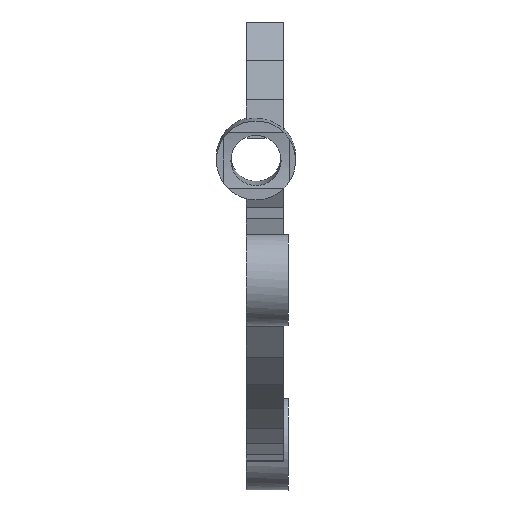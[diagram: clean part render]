
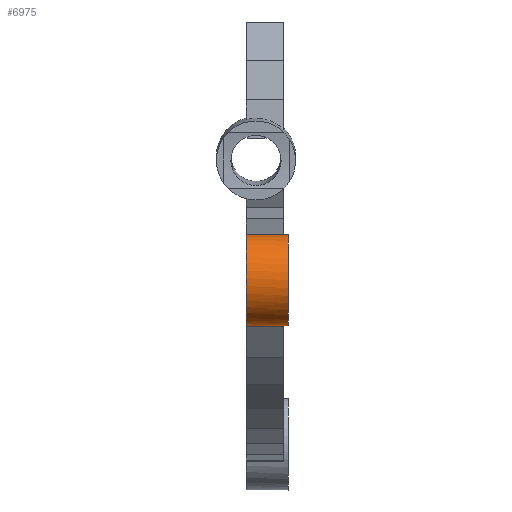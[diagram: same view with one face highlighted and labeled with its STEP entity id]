
A CAD part, front view. The second image highlights one B-rep face of the part: STEP entity #6975.
In plain terms, the highlighted cylindrical face has radius 3.7 mm (diameter 7.4 mm), a full revolution.
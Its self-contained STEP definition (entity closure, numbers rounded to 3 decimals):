
#1044 = PLANE('',#1045);
#1045 = AXIS2_PLACEMENT_3D('',#1046,#1047,#1048);
#1046 = CARTESIAN_POINT('',(40.7,-61.959,-68.298));
#1047 = DIRECTION('',(1.,0.,0.));
#1048 = DIRECTION('',(-0.,0.,1.));
#1120 = PLANE('',#1121);
#1121 = AXIS2_PLACEMENT_3D('',#1122,#1123,#1124);
#1122 = CARTESIAN_POINT('',(43.7,-61.959,-68.298));
#1123 = DIRECTION('',(1.,0.,0.));
#1124 = DIRECTION('',(-0.,0.,1.));
#3469 = VERTEX_POINT('',#3470);
#3470 = CARTESIAN_POINT('',(40.7,-75.061,-62.057));
#3484 = PLANE('',#3485);
#3485 = AXIS2_PLACEMENT_3D('',#3486,#3487,#3488);
#3486 = CARTESIAN_POINT('',(40.7,-75.49,-60.777));
#3487 = DIRECTION('',(-0.,0.948,0.317));
#3488 = DIRECTION('',(0.,0.317,-0.948));
#3496 = EDGE_CURVE('',#3469,#3497,#3499,.T.);
#3497 = VERTEX_POINT('',#3498);
#3498 = CARTESIAN_POINT('',(40.7,-75.269,-62.052));
#3499 = SURFACE_CURVE('',#3500,(#3505,#3512),.PCURVE_S1.);
#3500 = CIRCLE('',#3501,3.7);
#3501 = AXIS2_PLACEMENT_3D('',#3502,#3503,#3504);
#3502 = CARTESIAN_POINT('',(40.7,-75.269,-65.752));
#3503 = DIRECTION('',(1.,0.,0.));
#3504 = DIRECTION('',(-0.,0.,1.));
#3505 = PCURVE('',#1044,#3506);
#3506 = DEFINITIONAL_REPRESENTATION('',(#3507),#3511);
#3507 = CIRCLE('',#3508,3.7);
#3508 = AXIS2_PLACEMENT_2D('',#3509,#3510);
#3509 = CARTESIAN_POINT('',(2.547,13.31));
#3510 = DIRECTION('',(1.,0.));
#3511 = ( GEOMETRIC_REPRESENTATION_CONTEXT(2) 
PARAMETRIC_REPRESENTATION_CONTEXT() REPRESENTATION_CONTEXT('2D SPACE',''
  ) );
#3512 = PCURVE('',#3513,#3518);
#3513 = CYLINDRICAL_SURFACE('',#3514,3.7);
#3514 = AXIS2_PLACEMENT_3D('',#3515,#3516,#3517);
#3515 = CARTESIAN_POINT('',(40.7,-75.269,-65.752));
#3516 = DIRECTION('',(1.,0.,0.));
#3517 = DIRECTION('',(-0.,0.,1.));
#3518 = DEFINITIONAL_REPRESENTATION('',(#3519),#3523);
#3519 = LINE('',#3520,#3521);
#3520 = CARTESIAN_POINT('',(0.,0.));
#3521 = VECTOR('',#3522,1.);
#3522 = DIRECTION('',(1.,0.));
#3523 = ( GEOMETRIC_REPRESENTATION_CONTEXT(2) 
PARAMETRIC_REPRESENTATION_CONTEXT() REPRESENTATION_CONTEXT('2D SPACE',''
  ) );
#3525 = EDGE_CURVE('',#3497,#3526,#3528,.T.);
#3526 = VERTEX_POINT('',#3527);
#3527 = CARTESIAN_POINT('',(40.7,-72.305,-67.966));
#3528 = SURFACE_CURVE('',#3529,(#3534,#3541),.PCURVE_S1.);
#3529 = CIRCLE('',#3530,3.7);
#3530 = AXIS2_PLACEMENT_3D('',#3531,#3532,#3533);
#3531 = CARTESIAN_POINT('',(40.7,-75.269,-65.752));
#3532 = DIRECTION('',(1.,0.,0.));
#3533 = DIRECTION('',(-0.,0.,1.));
#3534 = PCURVE('',#1044,#3535);
#3535 = DEFINITIONAL_REPRESENTATION('',(#3536),#3540);
#3536 = CIRCLE('',#3537,3.7);
#3537 = AXIS2_PLACEMENT_2D('',#3538,#3539);
#3538 = CARTESIAN_POINT('',(2.547,13.31));
#3539 = DIRECTION('',(1.,0.));
#3540 = ( GEOMETRIC_REPRESENTATION_CONTEXT(2) 
PARAMETRIC_REPRESENTATION_CONTEXT() REPRESENTATION_CONTEXT('2D SPACE',''
  ) );
#3541 = PCURVE('',#3513,#3542);
#3542 = DEFINITIONAL_REPRESENTATION('',(#3543),#3547);
#3543 = LINE('',#3544,#3545);
#3544 = CARTESIAN_POINT('',(0.,0.));
#3545 = VECTOR('',#3546,1.);
#3546 = DIRECTION('',(1.,0.));
#3547 = ( GEOMETRIC_REPRESENTATION_CONTEXT(2) 
PARAMETRIC_REPRESENTATION_CONTEXT() REPRESENTATION_CONTEXT('2D SPACE',''
  ) );
#3565 = PLANE('',#3566);
#3566 = AXIS2_PLACEMENT_3D('',#3567,#3568,#3569);
#3567 = CARTESIAN_POINT('',(40.7,-73.07,-66.766));
#3568 = DIRECTION('',(-0.,0.843,0.537));
#3569 = DIRECTION('',(0.,0.537,-0.843));
#4543 = VERTEX_POINT('',#4544);
#4544 = CARTESIAN_POINT('',(43.7,-75.061,-62.057));
#4565 = EDGE_CURVE('',#4566,#4543,#4568,.T.);
#4566 = VERTEX_POINT('',#4567);
#4567 = CARTESIAN_POINT('',(43.7,-72.305,-67.966));
#4568 = SURFACE_CURVE('',#4569,(#4574,#4581),.PCURVE_S1.);
#4569 = CIRCLE('',#4570,3.7);
#4570 = AXIS2_PLACEMENT_3D('',#4571,#4572,#4573);
#4571 = CARTESIAN_POINT('',(43.7,-75.269,-65.752));
#4572 = DIRECTION('',(1.,0.,0.));
#4573 = DIRECTION('',(-0.,0.,1.));
#4574 = PCURVE('',#1120,#4575);
#4575 = DEFINITIONAL_REPRESENTATION('',(#4576),#4580);
#4576 = CIRCLE('',#4577,3.7);
#4577 = AXIS2_PLACEMENT_2D('',#4578,#4579);
#4578 = CARTESIAN_POINT('',(2.547,13.31));
#4579 = DIRECTION('',(1.,0.));
#4580 = ( GEOMETRIC_REPRESENTATION_CONTEXT(2) 
PARAMETRIC_REPRESENTATION_CONTEXT() REPRESENTATION_CONTEXT('2D SPACE',''
  ) );
#4581 = PCURVE('',#3513,#4582);
#4582 = DEFINITIONAL_REPRESENTATION('',(#4583),#4587);
#4583 = LINE('',#4584,#4585);
#4584 = CARTESIAN_POINT('',(0.,3.));
#4585 = VECTOR('',#4586,1.);
#4586 = DIRECTION('',(1.,0.));
#4587 = ( GEOMETRIC_REPRESENTATION_CONTEXT(2) 
PARAMETRIC_REPRESENTATION_CONTEXT() REPRESENTATION_CONTEXT('2D SPACE',''
  ) );
#6930 = EDGE_CURVE('',#3469,#4543,#6931,.T.);
#6931 = SURFACE_CURVE('',#6932,(#6936,#6942),.PCURVE_S1.);
#6932 = LINE('',#6933,#6934);
#6933 = CARTESIAN_POINT('',(40.7,-75.061,-62.057));
#6934 = VECTOR('',#6935,1.);
#6935 = DIRECTION('',(1.,0.,0.));
#6936 = PCURVE('',#3484,#6937);
#6937 = DEFINITIONAL_REPRESENTATION('',(#6938),#6941);
#6938 = B_SPLINE_CURVE_WITH_KNOTS('',1,(#6939,#6940),.UNSPECIFIED.,.F.,
  .F.,(2,2),(0.,3.3),.PIECEWISE_BEZIER_KNOTS.);
#6939 = CARTESIAN_POINT('',(1.35,0.));
#6940 = CARTESIAN_POINT('',(1.35,-3.3));
#6941 = ( GEOMETRIC_REPRESENTATION_CONTEXT(2) 
PARAMETRIC_REPRESENTATION_CONTEXT() REPRESENTATION_CONTEXT('2D SPACE',''
  ) );
#6942 = PCURVE('',#3513,#6943);
#6943 = DEFINITIONAL_REPRESENTATION('',(#6944),#6947);
#6944 = B_SPLINE_CURVE_WITH_KNOTS('',1,(#6945,#6946),.UNSPECIFIED.,.F.,
  .F.,(2,2),(0.,3.3),.PIECEWISE_BEZIER_KNOTS.);
#6945 = CARTESIAN_POINT('',(6.227,0.));
#6946 = CARTESIAN_POINT('',(6.227,3.3));
#6947 = ( GEOMETRIC_REPRESENTATION_CONTEXT(2) 
PARAMETRIC_REPRESENTATION_CONTEXT() REPRESENTATION_CONTEXT('2D SPACE',''
  ) );
#6975 = ADVANCED_FACE('',(#6976),#3513,.T.);
#6976 = FACE_BOUND('',#6977,.T.);
#6977 = EDGE_LOOP('',(#6978,#7001,#7028,#7029,#7030,#7049,#7050,#7051));
#6978 = ORIENTED_EDGE('',*,*,#6979,.T.);
#6979 = EDGE_CURVE('',#3497,#6980,#6982,.T.);
#6980 = VERTEX_POINT('',#6981);
#6981 = CARTESIAN_POINT('',(44.1,-75.269,-62.052));
#6982 = SEAM_CURVE('',#6983,(#6987,#6994),.PCURVE_S1.);
#6983 = LINE('',#6984,#6985);
#6984 = CARTESIAN_POINT('',(40.7,-75.269,-62.052));
#6985 = VECTOR('',#6986,1.);
#6986 = DIRECTION('',(1.,0.,0.));
#6987 = PCURVE('',#3513,#6988);
#6988 = DEFINITIONAL_REPRESENTATION('',(#6989),#6993);
#6989 = LINE('',#6990,#6991);
#6990 = CARTESIAN_POINT('',(6.283,-0.));
#6991 = VECTOR('',#6992,1.);
#6992 = DIRECTION('',(0.,1.));
#6993 = ( GEOMETRIC_REPRESENTATION_CONTEXT(2) 
PARAMETRIC_REPRESENTATION_CONTEXT() REPRESENTATION_CONTEXT('2D SPACE',''
  ) );
#6994 = PCURVE('',#3513,#6995);
#6995 = DEFINITIONAL_REPRESENTATION('',(#6996),#7000);
#6996 = LINE('',#6997,#6998);
#6997 = CARTESIAN_POINT('',(0.,-0.));
#6998 = VECTOR('',#6999,1.);
#6999 = DIRECTION('',(0.,1.));
#7000 = ( GEOMETRIC_REPRESENTATION_CONTEXT(2) 
PARAMETRIC_REPRESENTATION_CONTEXT() REPRESENTATION_CONTEXT('2D SPACE',''
  ) );
#7001 = ORIENTED_EDGE('',*,*,#7002,.F.);
#7002 = EDGE_CURVE('',#6980,#6980,#7003,.T.);
#7003 = SURFACE_CURVE('',#7004,(#7009,#7016),.PCURVE_S1.);
#7004 = CIRCLE('',#7005,3.7);
#7005 = AXIS2_PLACEMENT_3D('',#7006,#7007,#7008);
#7006 = CARTESIAN_POINT('',(44.1,-75.269,-65.752));
#7007 = DIRECTION('',(1.,0.,0.));
#7008 = DIRECTION('',(-0.,0.,1.));
#7009 = PCURVE('',#3513,#7010);
#7010 = DEFINITIONAL_REPRESENTATION('',(#7011),#7015);
#7011 = LINE('',#7012,#7013);
#7012 = CARTESIAN_POINT('',(0.,3.4));
#7013 = VECTOR('',#7014,1.);
#7014 = DIRECTION('',(1.,0.));
#7015 = ( GEOMETRIC_REPRESENTATION_CONTEXT(2) 
PARAMETRIC_REPRESENTATION_CONTEXT() REPRESENTATION_CONTEXT('2D SPACE',''
  ) );
#7016 = PCURVE('',#7017,#7022);
#7017 = PLANE('',#7018);
#7018 = AXIS2_PLACEMENT_3D('',#7019,#7020,#7021);
#7019 = CARTESIAN_POINT('',(44.1,-75.269,-65.752));
#7020 = DIRECTION('',(1.,0.,0.));
#7021 = DIRECTION('',(-0.,0.,1.));
#7022 = DEFINITIONAL_REPRESENTATION('',(#7023),#7027);
#7023 = CIRCLE('',#7024,3.7);
#7024 = AXIS2_PLACEMENT_2D('',#7025,#7026);
#7025 = CARTESIAN_POINT('',(0.,0.));
#7026 = DIRECTION('',(1.,0.));
#7027 = ( GEOMETRIC_REPRESENTATION_CONTEXT(2) 
PARAMETRIC_REPRESENTATION_CONTEXT() REPRESENTATION_CONTEXT('2D SPACE',''
  ) );
#7028 = ORIENTED_EDGE('',*,*,#6979,.F.);
#7029 = ORIENTED_EDGE('',*,*,#3525,.T.);
#7030 = ORIENTED_EDGE('',*,*,#7031,.T.);
#7031 = EDGE_CURVE('',#3526,#4566,#7032,.T.);
#7032 = SURFACE_CURVE('',#7033,(#7037,#7043),.PCURVE_S1.);
#7033 = LINE('',#7034,#7035);
#7034 = CARTESIAN_POINT('',(40.7,-72.305,-67.966));
#7035 = VECTOR('',#7036,1.);
#7036 = DIRECTION('',(1.,0.,0.));
#7037 = PCURVE('',#3513,#7038);
#7038 = DEFINITIONAL_REPRESENTATION('',(#7039),#7042);
#7039 = B_SPLINE_CURVE_WITH_KNOTS('',1,(#7040,#7041),.UNSPECIFIED.,.F.,
  .F.,(2,2),(0.,3.3),.PIECEWISE_BEZIER_KNOTS.);
#7040 = CARTESIAN_POINT('',(4.071,0.));
#7041 = CARTESIAN_POINT('',(4.071,3.3));
#7042 = ( GEOMETRIC_REPRESENTATION_CONTEXT(2) 
PARAMETRIC_REPRESENTATION_CONTEXT() REPRESENTATION_CONTEXT('2D SPACE',''
  ) );
#7043 = PCURVE('',#3565,#7044);
#7044 = DEFINITIONAL_REPRESENTATION('',(#7045),#7048);
#7045 = B_SPLINE_CURVE_WITH_KNOTS('',1,(#7046,#7047),.UNSPECIFIED.,.F.,
  .F.,(2,2),(0.,3.3),.PIECEWISE_BEZIER_KNOTS.);
#7046 = CARTESIAN_POINT('',(1.423,0.));
#7047 = CARTESIAN_POINT('',(1.423,-3.3));
#7048 = ( GEOMETRIC_REPRESENTATION_CONTEXT(2) 
PARAMETRIC_REPRESENTATION_CONTEXT() REPRESENTATION_CONTEXT('2D SPACE',''
  ) );
#7049 = ORIENTED_EDGE('',*,*,#4565,.T.);
#7050 = ORIENTED_EDGE('',*,*,#6930,.F.);
#7051 = ORIENTED_EDGE('',*,*,#3496,.T.);
